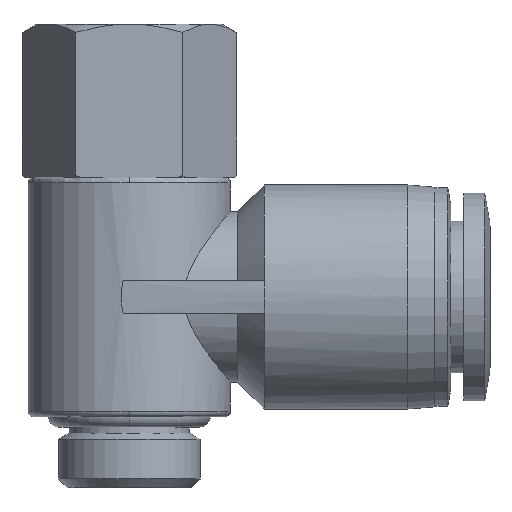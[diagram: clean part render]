
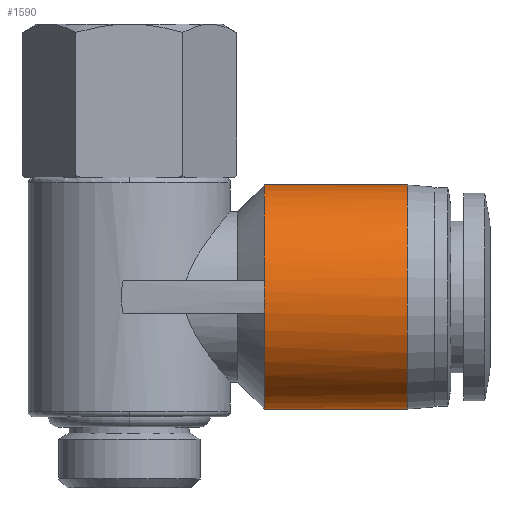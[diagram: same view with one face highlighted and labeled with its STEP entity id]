
A CAD part, top view. The second image highlights one B-rep face of the part: STEP entity #1590.
In plain terms, the highlighted cylindrical face has radius 10.25 mm (diameter 20.5 mm), a partial arc.
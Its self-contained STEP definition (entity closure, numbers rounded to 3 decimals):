
#25 = AXIS2_PLACEMENT_3D ( 'NONE', #1859, #2829, #2796 ) ;
#150 = EDGE_CURVE ( 'NONE', #680, #2361, #864, .T. ) ;
#192 = VECTOR ( 'NONE', #1553, 1000. ) ;
#248 = CIRCLE ( 'NONE', #630, 10.25 ) ;
#532 = VERTEX_POINT ( 'NONE', #1926 ) ;
#538 = ORIENTED_EDGE ( 'NONE', *, *, #2310, .F. ) ;
#630 = AXIS2_PLACEMENT_3D ( 'NONE', #925, #1167, #1428 ) ;
#680 = VERTEX_POINT ( 'NONE', #2723 ) ;
#708 = ORIENTED_EDGE ( 'NONE', *, *, #1243, .F. ) ;
#864 = LINE ( 'NONE', #1281, #192 ) ;
#925 = CARTESIAN_POINT ( 'NONE',  ( 12.35, 27.45, 0. ) ) ;
#932 = FACE_OUTER_BOUND ( 'NONE', #991, .T. ) ;
#963 = CYLINDRICAL_SURFACE ( 'NONE', #25, 10.25 ) ;
#991 = EDGE_LOOP ( 'NONE', ( #1874, #1549, #538, #708, #2509, #2881 ) ) ;
#1039 = LINE ( 'NONE', #2704, #1571 ) ;
#1115 = CARTESIAN_POINT ( 'NONE',  ( 12.35, 28.95, 10.14 ) ) ;
#1167 = DIRECTION ( 'NONE',  ( -1., 0., 0. ) ) ;
#1243 = EDGE_CURVE ( 'NONE', #2857, #2312, #2012, .T. ) ;
#1258 = AXIS2_PLACEMENT_3D ( 'NONE', #2842, #1612, #2546 ) ;
#1264 = CARTESIAN_POINT ( 'NONE',  ( 12.35, 27.957, 10.287 ) ) ;
#1281 = CARTESIAN_POINT ( 'NONE',  ( 18.9, 37.7, 0. ) ) ;
#1366 = EDGE_CURVE ( 'NONE', #532, #2261, #1039, .T. ) ;
#1367 = DIRECTION ( 'NONE',  ( 0., -1., 0. ) ) ;
#1428 = DIRECTION ( 'NONE',  ( 0., -1., 0. ) ) ;
#1450 = EDGE_CURVE ( 'NONE', #532, #680, #2515, .T. ) ;
#1500 = CIRCLE ( 'NONE', #1258, 10.25 ) ;
#1549 = ORIENTED_EDGE ( 'NONE', *, *, #150, .T. ) ;
#1553 = DIRECTION ( 'NONE',  ( -1., 0., 0. ) ) ;
#1571 = VECTOR ( 'NONE', #2029, 1000. ) ;
#1590 = ADVANCED_FACE ( 'NONE', ( #932 ), #963, .T. ) ;
#1612 = DIRECTION ( 'NONE',  ( -1., 0., 0. ) ) ;
#1780 = AXIS2_PLACEMENT_3D ( 'NONE', #2729, #2967, #1367 ) ;
#1817 = CARTESIAN_POINT ( 'NONE',  ( 12.35, 37.7, 0. ) ) ;
#1859 = CARTESIAN_POINT ( 'NONE',  ( 18.9, 27.45, 0. ) ) ;
#1865 = CARTESIAN_POINT ( 'NONE',  ( 12.35, 17.2, 0. ) ) ;
#1874 = ORIENTED_EDGE ( 'NONE', *, *, #1450, .T. ) ;
#1926 = CARTESIAN_POINT ( 'NONE',  ( 25.45, 17.2, 0. ) ) ;
#2012 = B_SPLINE_CURVE_WITH_KNOTS ( 'NONE', 3,
 ( #2688, #2423, #1264, #2730 ),
 .UNSPECIFIED., .F., .F.,
 ( 4, 4 ),
 ( 0., 1. ),
 .UNSPECIFIED. ) ;
#2029 = DIRECTION ( 'NONE',  ( -1., 0., 0. ) ) ;
#2261 = VERTEX_POINT ( 'NONE', #1865 ) ;
#2310 = EDGE_CURVE ( 'NONE', #2312, #2361, #248, .T. ) ;
#2312 = VERTEX_POINT ( 'NONE', #1115 ) ;
#2361 = VERTEX_POINT ( 'NONE', #1817 ) ;
#2423 = CARTESIAN_POINT ( 'NONE',  ( 12.35, 26.943, 10.287 ) ) ;
#2468 = CARTESIAN_POINT ( 'NONE',  ( 12.35, 25.95, 10.14 ) ) ;
#2509 = ORIENTED_EDGE ( 'NONE', *, *, #2995, .F. ) ;
#2515 = CIRCLE ( 'NONE', #1780, 10.25 ) ;
#2546 = DIRECTION ( 'NONE',  ( 0., -1., 0. ) ) ;
#2688 = CARTESIAN_POINT ( 'NONE',  ( 12.35, 25.95, 10.14 ) ) ;
#2704 = CARTESIAN_POINT ( 'NONE',  ( 18.9, 17.2, 0. ) ) ;
#2723 = CARTESIAN_POINT ( 'NONE',  ( 25.45, 37.7, 0. ) ) ;
#2729 = CARTESIAN_POINT ( 'NONE',  ( 25.45, 27.45, 0. ) ) ;
#2730 = CARTESIAN_POINT ( 'NONE',  ( 12.35, 28.95, 10.14 ) ) ;
#2796 = DIRECTION ( 'NONE',  ( 0., -1., 0. ) ) ;
#2829 = DIRECTION ( 'NONE',  ( -1., 0., 0. ) ) ;
#2842 = CARTESIAN_POINT ( 'NONE',  ( 12.35, 27.45, 0. ) ) ;
#2857 = VERTEX_POINT ( 'NONE', #2468 ) ;
#2881 = ORIENTED_EDGE ( 'NONE', *, *, #1366, .F. ) ;
#2967 = DIRECTION ( 'NONE',  ( -1., 0., 0. ) ) ;
#2995 = EDGE_CURVE ( 'NONE', #2261, #2857, #1500, .T. ) ;
